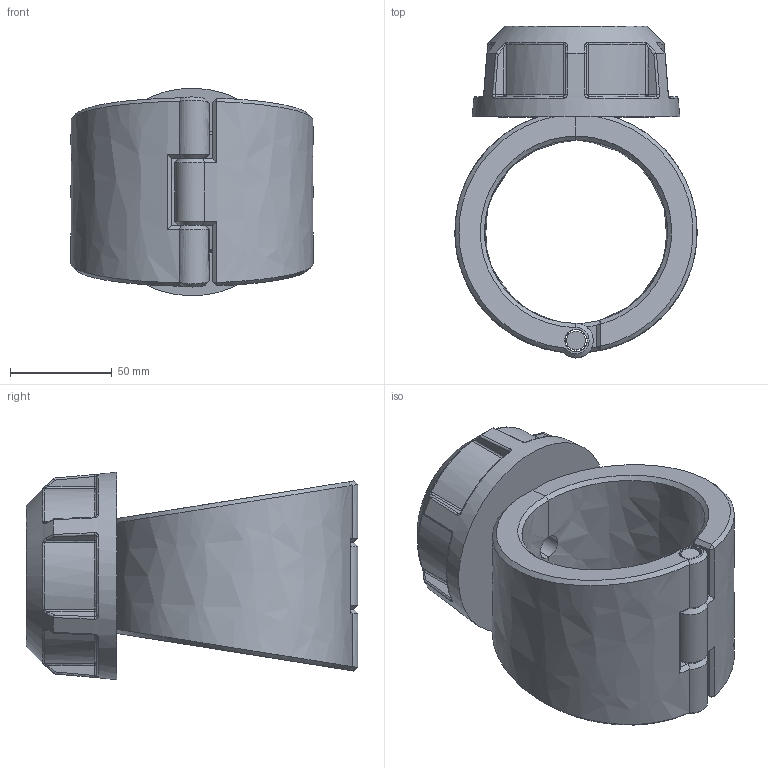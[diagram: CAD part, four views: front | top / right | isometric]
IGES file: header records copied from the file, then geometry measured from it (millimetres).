
Global section: file name: 163000090007; native system: Autodesk Inventor 2019; preprocessor: unknown; author: comp2; date: 20220203.114708; units: millimetre
Bounding box: 119 x 163 x 101.9 mm (x, y, z)
Volume: 607299 mm3; surface area: 96667.1 mm2
Topology: 4 solids, 4 shells, 203 faces, 486 edges, 293 vertices
Faces by surface type: bspline 203
